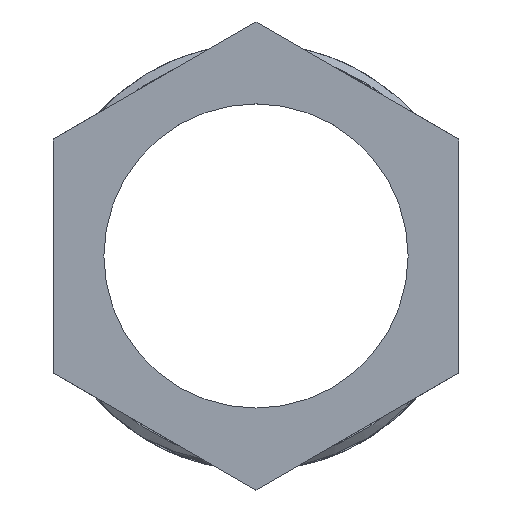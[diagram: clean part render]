
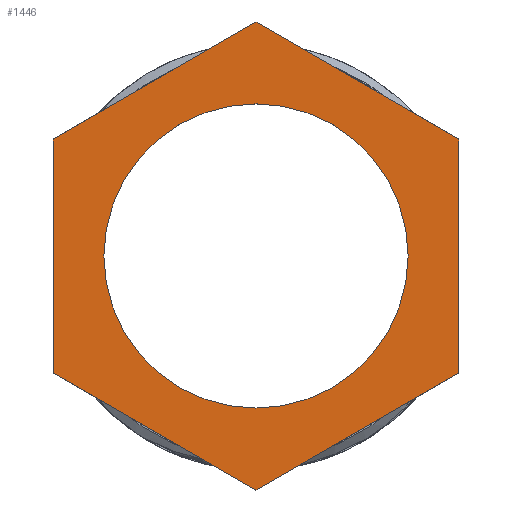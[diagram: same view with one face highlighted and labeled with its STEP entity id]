
A CAD part, top view. The second image highlights one B-rep face of the part: STEP entity #1446.
In plain terms, the highlighted planar face has unit normal (0, 0, 1).
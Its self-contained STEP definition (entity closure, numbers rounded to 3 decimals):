
#19=FACE_BOUND('',#304,.T.);
#158=CIRCLE('',#1577,19.5);
#229=FACE_OUTER_BOUND('',#303,.T.);
#303=EDGE_LOOP('',(#1316,#1317,#1318,#1319,#1320,#1321));
#304=EDGE_LOOP('',(#1322));
#313=LINE('',#1958,#428);
#320=LINE('',#1972,#435);
#327=LINE('',#1986,#442);
#339=LINE('',#2011,#454);
#346=LINE('',#2023,#461);
#352=LINE('',#2034,#467);
#428=VECTOR('',#1596,10.);
#435=VECTOR('',#1605,10.);
#442=VECTOR('',#1614,10.);
#454=VECTOR('',#1628,10.);
#461=VECTOR('',#1637,10.);
#467=VECTOR('',#1645,10.);
#543=VERTEX_POINT('',#1955);
#544=VERTEX_POINT('',#1957);
#550=VERTEX_POINT('',#1971);
#556=VERTEX_POINT('',#1985);
#567=VERTEX_POINT('',#2008);
#568=VERTEX_POINT('',#2010);
#685=VERTEX_POINT('',#3454);
#689=EDGE_CURVE('',#544,#543,#313,.T.);
#696=EDGE_CURVE('',#550,#544,#320,.T.);
#703=EDGE_CURVE('',#556,#550,#327,.T.);
#715=EDGE_CURVE('',#568,#567,#339,.T.);
#722=EDGE_CURVE('',#543,#568,#346,.T.);
#728=EDGE_CURVE('',#567,#556,#352,.T.);
#901=EDGE_CURVE('',#685,#685,#158,.F.);
#1316=ORIENTED_EDGE('',*,*,#728,.T.);
#1317=ORIENTED_EDGE('',*,*,#703,.T.);
#1318=ORIENTED_EDGE('',*,*,#696,.T.);
#1319=ORIENTED_EDGE('',*,*,#689,.T.);
#1320=ORIENTED_EDGE('',*,*,#722,.T.);
#1321=ORIENTED_EDGE('',*,*,#715,.T.);
#1322=ORIENTED_EDGE('',*,*,#901,.T.);
#1374=PLANE('',#1580);
#1446=ADVANCED_FACE('',(#229,#19),#1374,.T.);
#1577=AXIS2_PLACEMENT_3D('',#3455,#1926,#1927);
#1580=AXIS2_PLACEMENT_3D('',#3460,#1933,#1934);
#1596=DIRECTION('',(0.866,0.5,0.));
#1605=DIRECTION('',(0.866,-0.5,0.));
#1614=DIRECTION('',(0.,-1.,0.));
#1628=DIRECTION('',(-0.866,0.5,0.));
#1637=DIRECTION('',(0.,1.,0.));
#1645=DIRECTION('',(-0.866,-0.5,0.));
#1926=DIRECTION('center_axis',(0.,0.,
1.));
#1927=DIRECTION('ref_axis',(-1.,0.,0.));
#1933=DIRECTION('center_axis',(0.,0.,
1.));
#1934=DIRECTION('ref_axis',(-1.,0.,0.));
#1955=CARTESIAN_POINT('',(25.98,-14.896,64.004));
#1957=CARTESIAN_POINT('',(-0.001,-29.896,64.004));
#1958=CARTESIAN_POINT('',(6.495,-26.146,64.004));
#1971=CARTESIAN_POINT('',(-25.981,-14.896,64.004));
#1972=CARTESIAN_POINT('',(-19.486,-18.646,64.004));
#1985=CARTESIAN_POINT('',(-25.981,15.104,64.004));
#1986=CARTESIAN_POINT('',(-25.981,7.604,64.004));
#2008=CARTESIAN_POINT('',(-0.001,30.104,64.004));
#2010=CARTESIAN_POINT('',(25.98,15.104,64.004));
#2011=CARTESIAN_POINT('',(19.485,18.854,64.004));
#2023=CARTESIAN_POINT('',(25.98,-7.396,64.004));
#2034=CARTESIAN_POINT('',(-6.496,26.354,64.004));
#3454=CARTESIAN_POINT('',(19.499,0.104,64.004));
#3455=CARTESIAN_POINT('Origin',(-0.001,0.104,
64.004));
#3460=CARTESIAN_POINT('Origin',(-0.001,0.104,
64.004));
